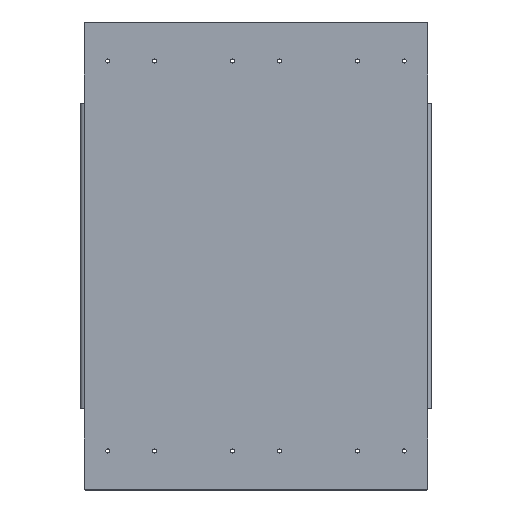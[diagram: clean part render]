
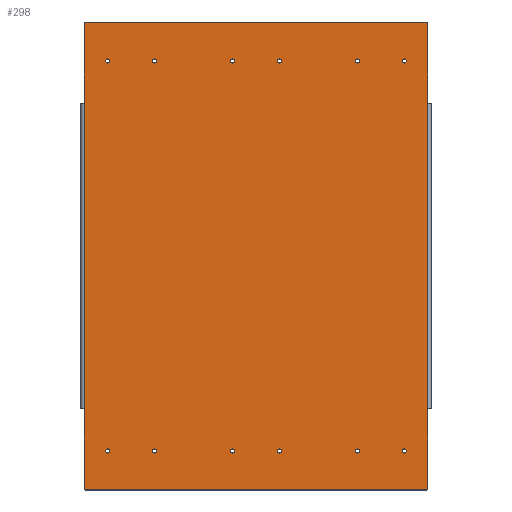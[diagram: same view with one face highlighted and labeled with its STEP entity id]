
A CAD part, top view. The second image highlights one B-rep face of the part: STEP entity #298.
In plain terms, the highlighted planar face has unit normal (0, 0, 1).
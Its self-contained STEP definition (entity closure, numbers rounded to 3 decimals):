
#59=CARTESIAN_POINT('',(1580.,4693.5,427.5));
#60=DIRECTION('',(-0.,-0.,1.));
#61=DIRECTION('',(0.,1.,0.));
#62=AXIS2_PLACEMENT_3D('',#59,#60,#61);
#63=PLANE('',#62);
#64=CARTESIAN_POINT('',(1210.,4730.9,427.5));
#65=VERTEX_POINT('',#64);
#66=CARTESIAN_POINT('',(1210.,4733.5,427.5));
#67=DIRECTION('',(-0.,-0.,1.));
#68=DIRECTION('',(0.,-1.,-0.));
#69=AXIS2_PLACEMENT_3D('',#66,#67,#68);
#70=CIRCLE('',#69,2.6);
#71=EDGE_CURVE('',#65,#65,#70,.T.);
#72=ORIENTED_EDGE('',*,*,#71,.F.);
#73=EDGE_LOOP('',(#72));
#74=FACE_BOUND('',#73,.T.);
#75=CARTESIAN_POINT('',(1270.,4730.9,427.5));
#76=VERTEX_POINT('',#75);
#77=CARTESIAN_POINT('',(1270.,4733.5,427.5));
#78=DIRECTION('',(-0.,-0.,1.));
#79=DIRECTION('',(0.,-1.,-0.));
#80=AXIS2_PLACEMENT_3D('',#77,#78,#79);
#81=CIRCLE('',#80,2.6);
#82=EDGE_CURVE('',#76,#76,#81,.T.);
#83=ORIENTED_EDGE('',*,*,#82,.F.);
#84=EDGE_LOOP('',(#83));
#85=FACE_BOUND('',#84,.T.);
#86=CARTESIAN_POINT('',(1370.,4730.9,427.5));
#87=VERTEX_POINT('',#86);
#88=CARTESIAN_POINT('',(1370.,4733.5,427.5));
#89=DIRECTION('',(-0.,-0.,1.));
#90=DIRECTION('',(0.,-1.,-0.));
#91=AXIS2_PLACEMENT_3D('',#88,#89,#90);
#92=CIRCLE('',#91,2.6);
#93=EDGE_CURVE('',#87,#87,#92,.T.);
#94=ORIENTED_EDGE('',*,*,#93,.F.);
#95=EDGE_LOOP('',(#94));
#96=FACE_BOUND('',#95,.T.);
#97=CARTESIAN_POINT('',(1430.,4730.9,427.5));
#98=VERTEX_POINT('',#97);
#99=CARTESIAN_POINT('',(1430.,4733.5,427.5));
#100=DIRECTION('',(-0.,-0.,1.));
#101=DIRECTION('',(0.,-1.,-0.));
#102=AXIS2_PLACEMENT_3D('',#99,#100,#101);
#103=CIRCLE('',#102,2.6);
#104=EDGE_CURVE('',#98,#98,#103,.T.);
#105=ORIENTED_EDGE('',*,*,#104,.F.);
#106=EDGE_LOOP('',(#105));
#107=FACE_BOUND('',#106,.T.);
#108=CARTESIAN_POINT('',(1530.,4730.9,427.5));
#109=VERTEX_POINT('',#108);
#110=CARTESIAN_POINT('',(1530.,4733.5,427.5));
#111=DIRECTION('',(-0.,-0.,1.));
#112=DIRECTION('',(0.,-1.,-0.));
#113=AXIS2_PLACEMENT_3D('',#110,#111,#112);
#114=CIRCLE('',#113,2.6);
#115=EDGE_CURVE('',#109,#109,#114,.T.);
#116=ORIENTED_EDGE('',*,*,#115,.F.);
#117=EDGE_LOOP('',(#116));
#118=FACE_BOUND('',#117,.T.);
#119=CARTESIAN_POINT('',(1590.,4730.9,427.5));
#120=VERTEX_POINT('',#119);
#121=CARTESIAN_POINT('',(1590.,4733.5,427.5));
#122=DIRECTION('',(-0.,-0.,1.));
#123=DIRECTION('',(0.,-1.,-0.));
#124=AXIS2_PLACEMENT_3D('',#121,#122,#123);
#125=CIRCLE('',#124,2.6);
#126=EDGE_CURVE('',#120,#120,#125,.T.);
#127=ORIENTED_EDGE('',*,*,#126,.F.);
#128=EDGE_LOOP('',(#127));
#129=FACE_BOUND('',#128,.T.);
#130=CARTESIAN_POINT('',(1270.,5230.9,427.5));
#131=VERTEX_POINT('',#130);
#132=CARTESIAN_POINT('',(1270.,5233.5,427.5));
#133=DIRECTION('',(-0.,-0.,1.));
#134=DIRECTION('',(0.,-1.,-0.));
#135=AXIS2_PLACEMENT_3D('',#132,#133,#134);
#136=CIRCLE('',#135,2.6);
#137=EDGE_CURVE('',#131,#131,#136,.T.);
#138=ORIENTED_EDGE('',*,*,#137,.F.);
#139=EDGE_LOOP('',(#138));
#140=FACE_BOUND('',#139,.T.);
#141=CARTESIAN_POINT('',(1210.,5230.9,427.5));
#142=VERTEX_POINT('',#141);
#143=CARTESIAN_POINT('',(1210.,5233.5,427.5));
#144=DIRECTION('',(-0.,-0.,1.));
#145=DIRECTION('',(0.,-1.,-0.));
#146=AXIS2_PLACEMENT_3D('',#143,#144,#145);
#147=CIRCLE('',#146,2.6);
#148=EDGE_CURVE('',#142,#142,#147,.T.);
#149=ORIENTED_EDGE('',*,*,#148,.F.);
#150=EDGE_LOOP('',(#149));
#151=FACE_BOUND('',#150,.T.);
#152=CARTESIAN_POINT('',(1530.,5230.9,427.5));
#153=VERTEX_POINT('',#152);
#154=CARTESIAN_POINT('',(1530.,5233.5,427.5));
#155=DIRECTION('',(-0.,-0.,1.));
#156=DIRECTION('',(0.,-1.,-0.));
#157=AXIS2_PLACEMENT_3D('',#154,#155,#156);
#158=CIRCLE('',#157,2.6);
#159=EDGE_CURVE('',#153,#153,#158,.T.);
#160=ORIENTED_EDGE('',*,*,#159,.F.);
#161=EDGE_LOOP('',(#160));
#162=FACE_BOUND('',#161,.T.);
#163=CARTESIAN_POINT('',(1370.,5230.9,427.5));
#164=VERTEX_POINT('',#163);
#165=CARTESIAN_POINT('',(1370.,5233.5,427.5));
#166=DIRECTION('',(-0.,-0.,1.));
#167=DIRECTION('',(0.,-1.,-0.));
#168=AXIS2_PLACEMENT_3D('',#165,#166,#167);
#169=CIRCLE('',#168,2.6);
#170=EDGE_CURVE('',#164,#164,#169,.T.);
#171=ORIENTED_EDGE('',*,*,#170,.F.);
#172=EDGE_LOOP('',(#171));
#173=FACE_BOUND('',#172,.T.);
#174=CARTESIAN_POINT('',(1430.,5230.9,427.5));
#175=VERTEX_POINT('',#174);
#176=CARTESIAN_POINT('',(1430.,5233.5,427.5));
#177=DIRECTION('',(-0.,-0.,1.));
#178=DIRECTION('',(0.,-1.,-0.));
#179=AXIS2_PLACEMENT_3D('',#176,#177,#178);
#180=CIRCLE('',#179,2.6);
#181=EDGE_CURVE('',#175,#175,#180,.T.);
#182=ORIENTED_EDGE('',*,*,#181,.F.);
#183=EDGE_LOOP('',(#182));
#184=FACE_BOUND('',#183,.T.);
#185=CARTESIAN_POINT('',(1590.,5230.9,427.5));
#186=VERTEX_POINT('',#185);
#187=CARTESIAN_POINT('',(1590.,5233.5,427.5));
#188=DIRECTION('',(-0.,-0.,1.));
#189=DIRECTION('',(0.,-1.,-0.));
#190=AXIS2_PLACEMENT_3D('',#187,#188,#189);
#191=CIRCLE('',#190,2.6);
#192=EDGE_CURVE('',#186,#186,#191,.T.);
#193=ORIENTED_EDGE('',*,*,#192,.F.);
#194=EDGE_LOOP('',(#193));
#195=FACE_BOUND('',#194,.T.);
#196=CARTESIAN_POINT('',(1620.,4787.5,427.5));
#197=VERTEX_POINT('',#196);
#198=CARTESIAN_POINT('',(1620.,4684.5,427.5));
#199=VERTEX_POINT('',#198);
#200=CARTESIAN_POINT('',(1620.,4787.5,427.5));
#201=DIRECTION('',(0.,-1.,-0.));
#202=VECTOR('',#201,103.);
#203=LINE('',#200,#202);
#204=EDGE_CURVE('',#197,#199,#203,.T.);
#205=ORIENTED_EDGE('',*,*,#204,.F.);
#206=CARTESIAN_POINT('',(1620.,5179.5,427.5));
#207=VERTEX_POINT('',#206);
#208=CARTESIAN_POINT('',(1620.,4787.5,427.5));
#209=DIRECTION('',(0.,1.,0.));
#210=VECTOR('',#209,392.);
#211=LINE('',#208,#210);
#212=EDGE_CURVE('',#197,#207,#211,.T.);
#213=ORIENTED_EDGE('',*,*,#212,.T.);
#214=CARTESIAN_POINT('',(1620.,5282.5,427.5));
#215=VERTEX_POINT('',#214);
#216=CARTESIAN_POINT('',(1620.,5179.5,427.5));
#217=DIRECTION('',(0.,1.,0.));
#218=VECTOR('',#217,103.);
#219=LINE('',#216,#218);
#220=EDGE_CURVE('',#207,#215,#219,.T.);
#221=ORIENTED_EDGE('',*,*,#220,.T.);
#222=CARTESIAN_POINT('',(1619.,5283.5,427.5));
#223=VERTEX_POINT('',#222);
#224=CARTESIAN_POINT('',(1619.,5282.5,427.5));
#225=DIRECTION('',(-0.,-0.,1.));
#226=DIRECTION('',(0.,-1.,-0.));
#227=AXIS2_PLACEMENT_3D('',#224,#225,#226);
#228=CIRCLE('',#227,1.);
#229=EDGE_CURVE('',#215,#223,#228,.T.);
#230=ORIENTED_EDGE('',*,*,#229,.T.);
#231=CARTESIAN_POINT('',(1181.,5283.5,427.5));
#232=VERTEX_POINT('',#231);
#233=CARTESIAN_POINT('',(1619.,5283.5,427.5));
#234=DIRECTION('',(-1.,0.,0.));
#235=VECTOR('',#234,438.);
#236=LINE('',#233,#235);
#237=EDGE_CURVE('',#223,#232,#236,.T.);
#238=ORIENTED_EDGE('',*,*,#237,.T.);
#239=CARTESIAN_POINT('',(1180.,5282.5,427.5));
#240=VERTEX_POINT('',#239);
#241=CARTESIAN_POINT('',(1181.,5282.5,427.5));
#242=DIRECTION('',(-0.,-0.,1.));
#243=DIRECTION('',(0.,-1.,-0.));
#244=AXIS2_PLACEMENT_3D('',#241,#242,#243);
#245=CIRCLE('',#244,1.);
#246=EDGE_CURVE('',#232,#240,#245,.T.);
#247=ORIENTED_EDGE('',*,*,#246,.T.);
#248=CARTESIAN_POINT('',(1180.,5179.5,427.5));
#249=VERTEX_POINT('',#248);
#250=CARTESIAN_POINT('',(1180.,5179.5,427.5));
#251=DIRECTION('',(0.,1.,0.));
#252=VECTOR('',#251,103.);
#253=LINE('',#250,#252);
#254=EDGE_CURVE('',#249,#240,#253,.T.);
#255=ORIENTED_EDGE('',*,*,#254,.F.);
#256=CARTESIAN_POINT('',(1180.,4787.5,427.5));
#257=VERTEX_POINT('',#256);
#258=CARTESIAN_POINT('',(1180.,5179.5,427.5));
#259=DIRECTION('',(-0.,-1.,-0.));
#260=VECTOR('',#259,392.);
#261=LINE('',#258,#260);
#262=EDGE_CURVE('',#249,#257,#261,.T.);
#263=ORIENTED_EDGE('',*,*,#262,.T.);
#264=CARTESIAN_POINT('',(1180.,4684.5,427.5));
#265=VERTEX_POINT('',#264);
#266=CARTESIAN_POINT('',(1180.,4787.5,427.5));
#267=DIRECTION('',(0.,-1.,-0.));
#268=VECTOR('',#267,103.);
#269=LINE('',#266,#268);
#270=EDGE_CURVE('',#257,#265,#269,.T.);
#271=ORIENTED_EDGE('',*,*,#270,.T.);
#272=CARTESIAN_POINT('',(1181.,4683.5,427.5));
#273=VERTEX_POINT('',#272);
#274=CARTESIAN_POINT('',(1181.,4684.5,427.5));
#275=DIRECTION('',(-0.,-0.,1.));
#276=DIRECTION('',(0.,-1.,-0.));
#277=AXIS2_PLACEMENT_3D('',#274,#275,#276);
#278=CIRCLE('',#277,1.);
#279=EDGE_CURVE('',#265,#273,#278,.T.);
#280=ORIENTED_EDGE('',*,*,#279,.T.);
#281=CARTESIAN_POINT('',(1619.,4683.5,427.5));
#282=VERTEX_POINT('',#281);
#283=CARTESIAN_POINT('',(1619.,4683.5,427.5));
#284=DIRECTION('',(-1.,0.,0.));
#285=VECTOR('',#284,438.);
#286=LINE('',#283,#285);
#287=EDGE_CURVE('',#282,#273,#286,.T.);
#288=ORIENTED_EDGE('',*,*,#287,.F.);
#289=CARTESIAN_POINT('',(1619.,4684.5,427.5));
#290=DIRECTION('',(-0.,-0.,1.));
#291=DIRECTION('',(0.,-1.,-0.));
#292=AXIS2_PLACEMENT_3D('',#289,#290,#291);
#293=CIRCLE('',#292,1.);
#294=EDGE_CURVE('',#282,#199,#293,.T.);
#295=ORIENTED_EDGE('',*,*,#294,.T.);
#296=EDGE_LOOP('',(#205,#213,#221,#230,#238,#247,#255,#263,#271,#280,#288,#295));
#297=FACE_BOUND('',#296,.T.);
#298=ADVANCED_FACE('',(#74,#85,#96,#107,#118,#129,#140,#151,#162,#173,#184,#195,#297),#63,.T.);
